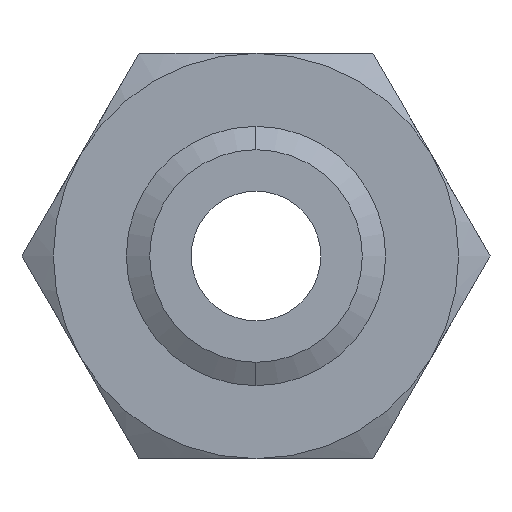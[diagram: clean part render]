
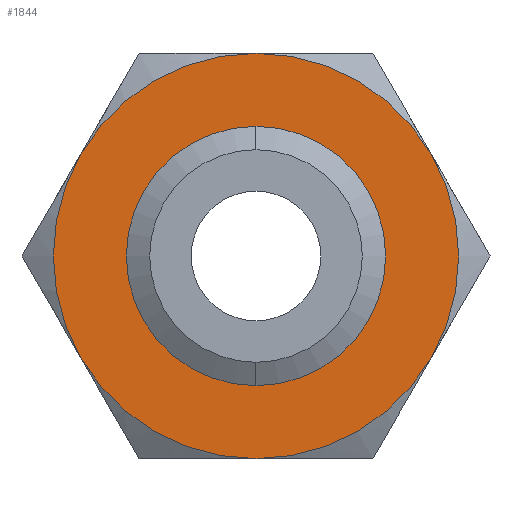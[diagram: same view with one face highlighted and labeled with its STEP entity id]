
A CAD part, front view. The second image highlights one B-rep face of the part: STEP entity #1844.
In plain terms, the highlighted planar face has unit normal (0, -1, 0).
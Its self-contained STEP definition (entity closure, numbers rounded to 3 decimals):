
#3 = ORIENTED_EDGE ( 'NONE', *, *, #4, .F. ) ;
#4 = EDGE_CURVE ( 'NONE', #2028, #2030, #110, .T. ) ;
#51 = EDGE_CURVE ( 'NONE', #52, #1650, #181, .T. ) ;
#52 = VERTEX_POINT ( 'NONE', #177 ) ;
#71 = EDGE_CURVE ( 'NONE', #72, #1638, #256, .T. ) ;
#72 = VERTEX_POINT ( 'NONE', #241 ) ;
#73 = ORIENTED_EDGE ( 'NONE', *, *, #74, .F. ) ;
#74 = EDGE_CURVE ( 'NONE', #75, #72, #240, .T. ) ;
#75 = VERTEX_POINT ( 'NONE', #234 ) ;
#76 = ORIENTED_EDGE ( 'NONE', *, *, #77, .F. ) ;
#77 = EDGE_CURVE ( 'NONE', #1650, #75, #232, .T. ) ;
#78 = EDGE_LOOP ( 'NONE', ( #79, #3 ) ) ;
#79 = ORIENTED_EDGE ( 'NONE', *, *, #2027, .F. ) ;
#106 = DIRECTION ( 'NONE',  ( 0., 0., -1. ) ) ;
#107 = DIRECTION ( 'NONE',  ( 0., -1., 0. ) ) ;
#108 = CARTESIAN_POINT ( 'NONE',  ( 0., 0., 0. ) ) ;
#109 = AXIS2_PLACEMENT_3D ( 'NONE', #108, #107, #106 ) ;
#110 = CIRCLE ( 'NONE', #109, 19.67 ) ;
#173 = DIRECTION ( 'NONE',  ( 0., 0., 1. ) ) ;
#174 = DIRECTION ( 'NONE',  ( 0., 1., 0. ) ) ;
#175 = CARTESIAN_POINT ( 'NONE',  ( 0., 0., 0. ) ) ;
#176 = AXIS2_PLACEMENT_3D ( 'NONE', #175, #174, #173 ) ;
#177 = CARTESIAN_POINT ( 'NONE',  ( 0., 0., 37.5 ) ) ;
#181 = CIRCLE ( 'NONE', #176, 37.5 ) ;
#228 = DIRECTION ( 'NONE',  ( 0., 0., 1. ) ) ;
#229 = DIRECTION ( 'NONE',  ( 0., 1., 0. ) ) ;
#230 = CARTESIAN_POINT ( 'NONE',  ( 0., 0., 0. ) ) ;
#231 = AXIS2_PLACEMENT_3D ( 'NONE', #230, #229, #228 ) ;
#232 = CIRCLE ( 'NONE', #231, 37.5 ) ;
#234 = CARTESIAN_POINT ( 'NONE',  ( 32.476, 0., -18.75 ) ) ;
#235 = DIRECTION ( 'NONE',  ( 0., 0., 1. ) ) ;
#236 = DIRECTION ( 'NONE',  ( 0., 1., 0. ) ) ;
#237 = CARTESIAN_POINT ( 'NONE',  ( 0., 0., 0. ) ) ;
#238 = AXIS2_PLACEMENT_3D ( 'NONE', #237, #236, #235 ) ;
#240 = CIRCLE ( 'NONE', #238, 37.5 ) ;
#241 = CARTESIAN_POINT ( 'NONE',  ( 0., 0., -37.5 ) ) ;
#242 = DIRECTION ( 'NONE',  ( 0., 0., 1. ) ) ;
#243 = DIRECTION ( 'NONE',  ( 0., 1., 0. ) ) ;
#244 = CARTESIAN_POINT ( 'NONE',  ( 0., 0., 0. ) ) ;
#245 = AXIS2_PLACEMENT_3D ( 'NONE', #244, #243, #242 ) ;
#256 = CIRCLE ( 'NONE', #245, 37.5 ) ;
#443 = CARTESIAN_POINT ( 'NONE',  ( 32.476, 0., 18.75 ) ) ;
#444 = CARTESIAN_POINT ( 'NONE',  ( -32.476, 0., 18.75 ) ) ;
#445 = DIRECTION ( 'NONE',  ( 0., 0., 1. ) ) ;
#446 = DIRECTION ( 'NONE',  ( 0., 1., 0. ) ) ;
#447 = CARTESIAN_POINT ( 'NONE',  ( 0., 0., 0. ) ) ;
#448 = AXIS2_PLACEMENT_3D ( 'NONE', #447, #446, #445 ) ;
#449 = CIRCLE ( 'NONE', #448, 37.5 ) ;
#455 = CARTESIAN_POINT ( 'NONE',  ( -32.476, 0., -18.75 ) ) ;
#500 = DIRECTION ( 'NONE',  ( 0., 0., 1. ) ) ;
#501 = DIRECTION ( 'NONE',  ( 0., 1., 0. ) ) ;
#502 = CARTESIAN_POINT ( 'NONE',  ( 0., 0., 0. ) ) ;
#503 = AXIS2_PLACEMENT_3D ( 'NONE', #502, #501, #500 ) ;
#504 = CIRCLE ( 'NONE', #503, 37.5 ) ;
#912 = DIRECTION ( 'NONE',  ( 0., 0., 1. ) ) ;
#913 = DIRECTION ( 'NONE',  ( 0., 1., 0. ) ) ;
#914 = CARTESIAN_POINT ( 'NONE',  ( 21.651, 0., -37.5 ) ) ;
#915 = AXIS2_PLACEMENT_3D ( 'NONE', #914, #913, #912 ) ;
#916 = PLANE ( 'NONE',  #915 ) ;
#917 = FACE_BOUND ( 'NONE', #78, .T. ) ;
#923 = FACE_OUTER_BOUND ( 'NONE', #1838, .T. ) ;
#1294 = CARTESIAN_POINT ( 'NONE',  ( 0., 0., -19.67 ) ) ;
#1295 = CARTESIAN_POINT ( 'NONE',  ( 0., 0., 19.67 ) ) ;
#1296 = DIRECTION ( 'NONE',  ( 0., 0., -1. ) ) ;
#1297 = DIRECTION ( 'NONE',  ( 0., -1., 0. ) ) ;
#1298 = CARTESIAN_POINT ( 'NONE',  ( 0., 0., 0. ) ) ;
#1299 = AXIS2_PLACEMENT_3D ( 'NONE', #1298, #1297, #1296 ) ;
#1300 = CIRCLE ( 'NONE', #1299, 19.67 ) ;
#1638 = VERTEX_POINT ( 'NONE', #455 ) ;
#1639 = ORIENTED_EDGE ( 'NONE', *, *, #1647, .F. ) ;
#1643 = ORIENTED_EDGE ( 'NONE', *, *, #71, .F. ) ;
#1647 = EDGE_CURVE ( 'NONE', #1638, #1649, #449, .T. ) ;
#1648 = ORIENTED_EDGE ( 'NONE', *, *, #1651, .F. ) ;
#1649 = VERTEX_POINT ( 'NONE', #444 ) ;
#1650 = VERTEX_POINT ( 'NONE', #443 ) ;
#1651 = EDGE_CURVE ( 'NONE', #1649, #52, #504, .T. ) ;
#1838 = EDGE_LOOP ( 'NONE', ( #1839, #1648, #1639, #1643, #73, #76 ) ) ;
#1839 = ORIENTED_EDGE ( 'NONE', *, *, #51, .F. ) ;
#1844 = ADVANCED_FACE ( 'NONE', ( #923, #917 ), #916, .F. ) ;
#2027 = EDGE_CURVE ( 'NONE', #2030, #2028, #1300, .T. ) ;
#2028 = VERTEX_POINT ( 'NONE', #1295 ) ;
#2030 = VERTEX_POINT ( 'NONE', #1294 ) ;
